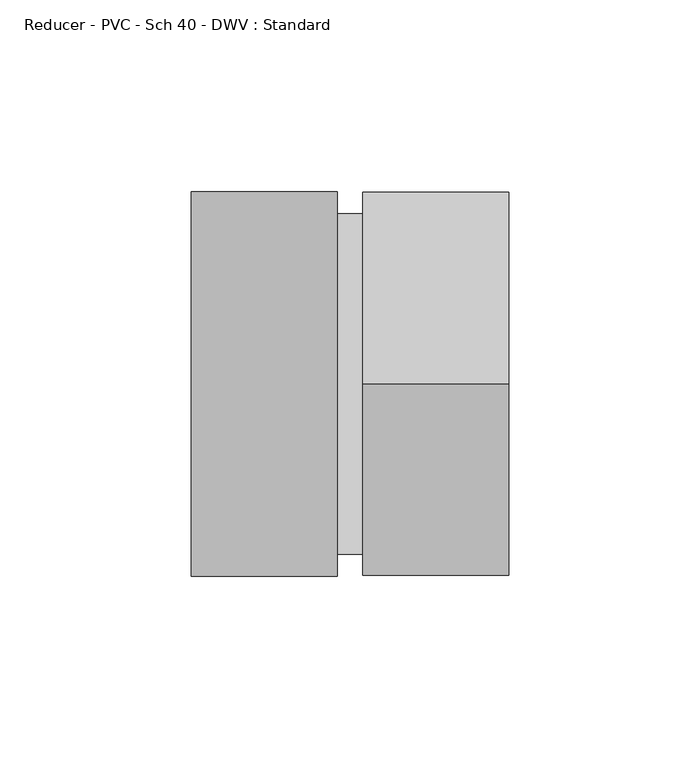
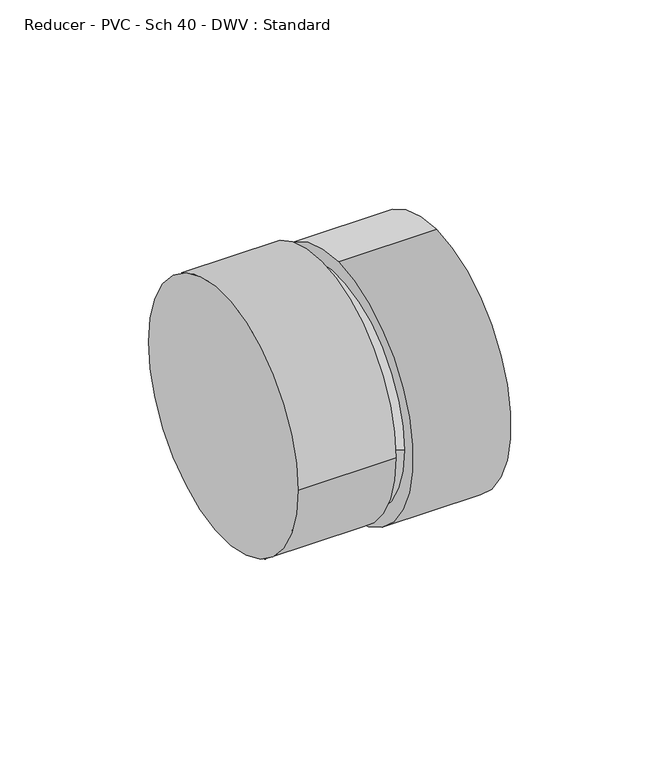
"""IFC4 building model written with IfcOpenShell, lengths in millimetres: pipe fitting geometry, Reducer - PVC - Sch 40 - DWV : Standard."""

from ifc_helpers import new_model, si_unit, point, frame, origin, place, context, project, spatial, circle_curve, trimmed, source, transform, mapped, element, save
from ifc_brep_helpers import plane_surface, cylinder_surface, extruded_surface, advanced_brep


def reducer_pvc_sch_40_dwv_standard_80dbeaf5(model_context):
    return source(origin(), model_context, "Body", "AdvancedBrep", [
        advanced_brep(
        [(0.0, -50.2666, 0.0), (0.0, 50.2666, 0.0), (38.1, -50.2666, 0.0), (38.1, 50.2666, 0.0), (38.1, 44.45, 0.0), (38.1, -44.45, 0.0), (44.6920938, 44.4781211, -2.6997762), (44.6920938, -44.4218789, -2.6997762), (44.6920938, 0.0281211, 47.5668238), (44.6920938, 0.0281211, -52.9663762), (82.7920938, 0.0281211, 47.5668238), (82.7920938, 0.0281211, -52.9663762)],
        [
            (0, 1, circle_curve(frame((0.0, 0.0, 0.0), z_axis=(-1.0, 0.0, 0.0), x_axis=(0.0, 1.0, 0.0)), 50.2666)),
            (1, 0, circle_curve(frame((0.0, 0.0, 0.0), z_axis=(-1.0, 0.0, 0.0), x_axis=(0.0, 1.0, 0.0)), 50.2666)),
            (2, 3, circle_curve(frame((38.1, 0.0, 0.0), z_axis=(1.0, 0.0, 0.0), x_axis=(0.0, 1.0, 0.0)), 50.2666)),
            (3, 2, circle_curve(frame((38.1, 0.0, 0.0), z_axis=(1.0, 0.0, 0.0), x_axis=(0.0, 1.0, 0.0)), 50.2666)),
            (4, 5, circle_curve(frame((38.1, 0.0, 0.0), z_axis=(-1.0, 0.0, 0.0), x_axis=(0.0, 1.0, 0.0)), 44.45)),
            (5, 4, circle_curve(frame((38.1, 0.0, 0.0), z_axis=(-1.0, 0.0, 0.0), x_axis=(0.0, 1.0, 0.0)), 44.45)),
            (0, 2),
            (3, 1),
            (4, 6),
            (6, 7, circle_curve(frame((44.6920938, 0.0281211, -2.6997762), z_axis=(-1.0, 0.0, 0.0), x_axis=(0.0, 1.0, 0.0)), 44.45)),
            (7, 5),
            (7, 6, circle_curve(frame((44.6920938, 0.0281211, -2.6997762), z_axis=(-1.0, 0.0, 0.0), x_axis=(0.0, 1.0, 0.0)), 44.45)),
            (8, 9, circle_curve(frame((44.6920938, 0.0281211, -2.6997762), z_axis=(-1.0, 0.0, 0.0), x_axis=(0.0, 0.0, -1.0)), 50.2666)),
            (9, 8, circle_curve(frame((44.6920938, 0.0281211, -2.6997762), z_axis=(-1.0, 0.0, 0.0), x_axis=(0.0, 0.0, -1.0)), 50.2666)),
            (10, 11, circle_curve(frame((82.7920938, 0.0281211, -2.6997762), z_axis=(1.0, 0.0, 0.0), x_axis=(0.0, 0.0, -1.0)), 50.2666)),
            (11, 10, circle_curve(frame((82.7920938, 0.0281211, -2.6997762), z_axis=(1.0, 0.0, 0.0), x_axis=(0.0, 0.0, -1.0)), 50.2666)),
            (8, 10),
            (11, 9),
        ],
        [
            plane_surface(frame((0.0, 0.0, 0.0), z_axis=(-1.0, 0.0, 0.0), x_axis=(0.0, 0.0, 1.0))),
            plane_surface(frame((38.1, 0.0, 0.0), z_axis=(1.0, 0.0, 0.0), x_axis=(0.0, 0.0, 1.0))),
            cylinder_surface(frame((0.0, 0.0, 0.0), z_axis=(-1.0, 0.0, 0.0), x_axis=(0.0, 1.0, 0.0)), 50.2666),
            extruded_surface(trimmed(circle_curve(frame((38.1, 0.0, 0.0), z_axis=(1.0, 0.0, 0.0), x_axis=(0.0, 1.0, 0.0)), 44.45), [point((38.1, -44.45, 0.0))], [point((38.1, 44.45, 0.0))], True, "CARTESIAN"), (6.592093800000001, 0.0281211, -2.6997762), 7.1235723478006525),
            extruded_surface(trimmed(circle_curve(frame((38.1, 0.0, 0.0), z_axis=(1.0, 0.0, 0.0), x_axis=(0.0, 1.0, 0.0)), 44.45), [point((38.1, 44.45, 0.0))], [point((38.1, -44.45, 0.0))], True, "CARTESIAN"), (6.592093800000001, 0.0281211, -2.6997762), 7.1235723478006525),
            plane_surface(frame((44.6920938, 0.0281211, -2.6997762), z_axis=(-1.0, 0.0, 0.0), x_axis=(0.0, 1.0, 0.0))),
            plane_surface(frame((82.7920938, 0.0281211, -2.6997762), z_axis=(1.0, 0.0, 0.0), x_axis=(0.0, 1.0, 0.0))),
            cylinder_surface(frame((44.6920938, 0.0281211, -2.6997762), z_axis=(-1.0, 0.0, 0.0), x_axis=(0.0, 0.0, -1.0)), 50.2666),
        ],
        [
            (0, [[1, 2]]),
            (1, [[3, 4], [5, 6]]),
            (2, [[-1, 7, -4, 8]]),
            (2, [[-2, -8, -3, -7]]),
            (3, [[9, 10, 11, -5]]),
            (4, [[-9, -6, -11, 12]]),
            (5, [[13, 14], [-10, -12]]),
            (6, [[15, 16]]),
            (7, [[-13, 17, -16, 18]]),
            (7, [[-14, -18, -15, -17]]),
        ],
    ),
    ])


if __name__ == "__main__":
    model = new_model("IFC4")
    model_context = context("Model", 3, world=origin())
    ifc_project = project(units=[si_unit("LENGTHUNIT", "METRE", prefix="MILLI")], contexts=[model_context])
    site = spatial("IfcSite", under=ifc_project)
    building = spatial("IfcBuilding", under=site)
    placement = place(None, origin())
    reducer_pvc_sch_40_dwv_standard_shape = reducer_pvc_sch_40_dwv_standard_80dbeaf5(model_context)
    element("IfcPipeFitting", 1, ObjectType="Reducer - PVC - Sch 40 - DWV : Standard", at=placement, inside=building, context=model_context, shape_type="MappedRepresentation", body=[
        mapped(reducer_pvc_sch_40_dwv_standard_shape, transform((0.0, 0.0, 0.0), x_axis=(1.0, 0.0, 0.0), y_axis=(0.0, 1.0, 0.0), z_axis=(0.0, 0.0, 1.0))),
    ])
    save(model, "model.ifc")
